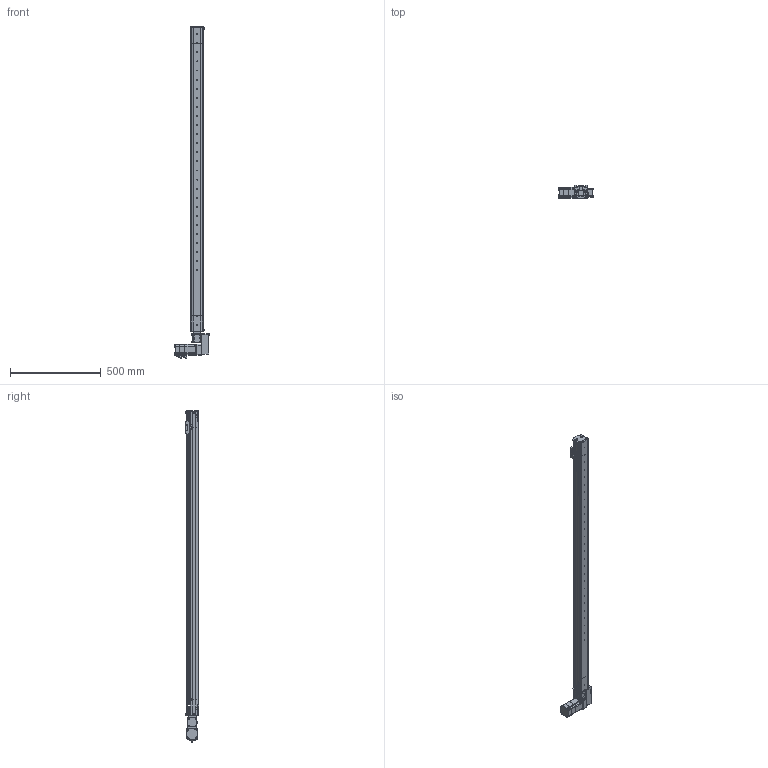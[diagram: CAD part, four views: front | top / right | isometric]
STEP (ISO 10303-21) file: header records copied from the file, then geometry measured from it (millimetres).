
FILE_DESCRIPTION (( 'STEP AP214' ), '1' );
FILE_NAME ('S07 TBN LH S1500.STEP', '2010-06-29T12:11:51', ( 'Conseil Régional Haute-Normandie' ), ( 'Conseil Régional Haute-Normandie' ), 'SwSTEP 2.0', 'SolidWorks 2010', '' );
FILE_SCHEMA (( 'AUTOMOTIVE_DESIGN' ));
Length unit declared in the file: millimetre
Products named in the file (41): P2 90A_Default; couroie tail_Default; Poulie_Default; T皻e de poulie_Default; vis M5 L12_Default; couvercle tail TB; plaque de bout_Default; Cvis M5 L30_Default; VisM3_Default; Conecteur2 60BLDC_Default; corp tail TB_Default; S07 TB tail (78)_Default; Vis M5 L16-2_Default; Conecteur 60BLDC_Default; Axe 60BLDC_Default; P4_Default; P3 90A_Default; CHariot_Default; vis M5 L16_Default; Chariot; guide; S07 TBN LH S1500; Couroie  course 1500_Default; Corp S07 course 1500_Default; Course C L1500_Default; corp moteur LH-RH(146)_Default; S07 LH(146)_Default; couvercle S07 course 1500 ; cache t皻e axe_Default; couvercle moteur S07 TB; plaque de bout LH_Default; vis M5 L5_Default; cache t皻e_Default; Poulie head_Default; Plaque racord_Default; Couroie t皻e_Default; Pièce5^S07 LH(146); P1_Default; GMB 60 90 310_Default; renvoi LH_Default
Assembly tree (80 placements, depth 4):
  S07 TBN LH S1500
    CHariot_Default
      vis M5 L16_Default  x2
      Chariot
      guide
    S07 TB tail (78)_Default
      vis M5 L12_Default  x10
      couroie tail_Default
      corp tail TB_Default
      plaque de bout_Default
      Poulie_Default
        Poulie_Default
        T皻e de poulie_Default
      couvercle tail TB
    Course C L1500_Default
      Couroie  course 1500_Default
      Corp S07 course 1500_Default
      couvercle S07 course 1500 
    S07 LH(146)_Default
      cache t皻e_Default  x2
      couvercle moteur S07 TB
      Couroie t皻e_Default
      plaque de bout LH_Default
      renvoi LH_Default
      vis M5 L12_Default  x6
      vis M5 L5_Default  x6
      Vis M5 L16-2_Default  x8
      Cvis M5 L30_Default  x2
      GMB 60 90 310_Default
        VisM3_Default  x12
        Axe 60BLDC_Default
        P1_Default
        Conecteur 60BLDC_Default
        P4_Default
        Conecteur2 60BLDC_Default
        P2 90A_Default
        P3 90A_Default
      corp moteur LH-RH(146)_Default
      Poulie head_Default
      Plaque racord_Default
      cache t皻e axe_Default
  Pièce5^S07 LH(146)
Bounding box: 190.2 x 72.2 x 1827 mm (x, y, z)
Volume: 3428546.7 mm3; surface area: 1498669.6 mm2
Topology: 102 solids, 102 shells, 3954 faces, 9834 edges, 6353 vertices
Faces by surface type: plane 2241, cylinder 783, bspline 677, cone 125, torus 124, sphere 4
Entity records: 168061 total; most frequent: CARTESIAN_POINT 75345, ORIENTED_EDGE 15580, DIRECTION 12461, EDGE_CURVE 7790, VERTEX_POINT 5141, VECTOR 5067, LINE 5067, AXIS2_PLACEMENT_3D 3697
